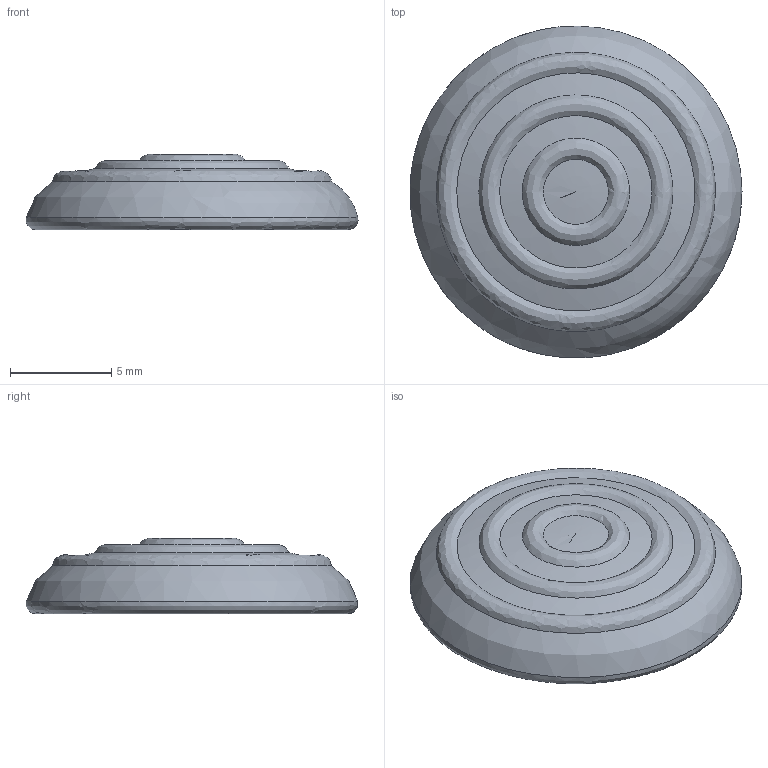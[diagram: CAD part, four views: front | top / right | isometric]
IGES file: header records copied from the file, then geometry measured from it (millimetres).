
Global section: file name: Main_Rubber; native system: unknown; preprocessor: unknown; author: unknown; organization: unknown; date: 20240903.233420; units: millimetre
Bounding box: 16.37 x 16.36 x 3.73 mm (x, y, z)
Volume: 331 mm3; surface area: 724.6 mm2
Topology: 1 solids, 1 shells, 47 faces, 146 edges, 93 vertices
Faces by surface type: bspline 47
